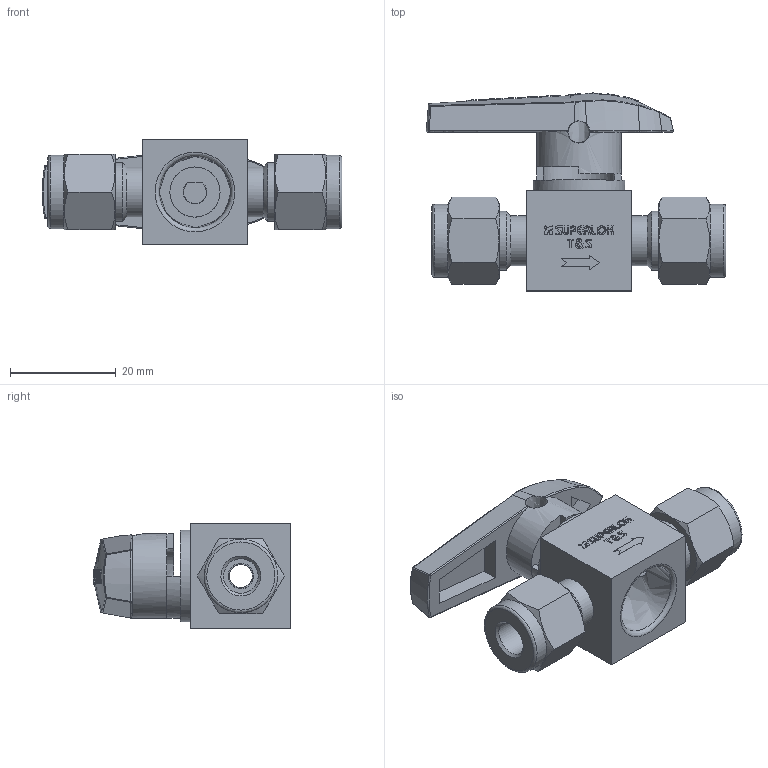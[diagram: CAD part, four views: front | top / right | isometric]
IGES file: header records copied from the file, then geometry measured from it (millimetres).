
Global section: file name: SPV131-S4; native system: Autodesk Inventor 2016; preprocessor: unknown; author: DESIGNPC2; date: 20160502.092335; units: millimetre
Bounding box: 56.82 x 37.5 x 20.01 mm (x, y, z)
Volume: 13174.8 mm3; surface area: 8310.9 mm2
Topology: 2 solids, 2 shells, 441 faces, 1165 edges, 771 vertices
Faces by surface type: bspline 441
